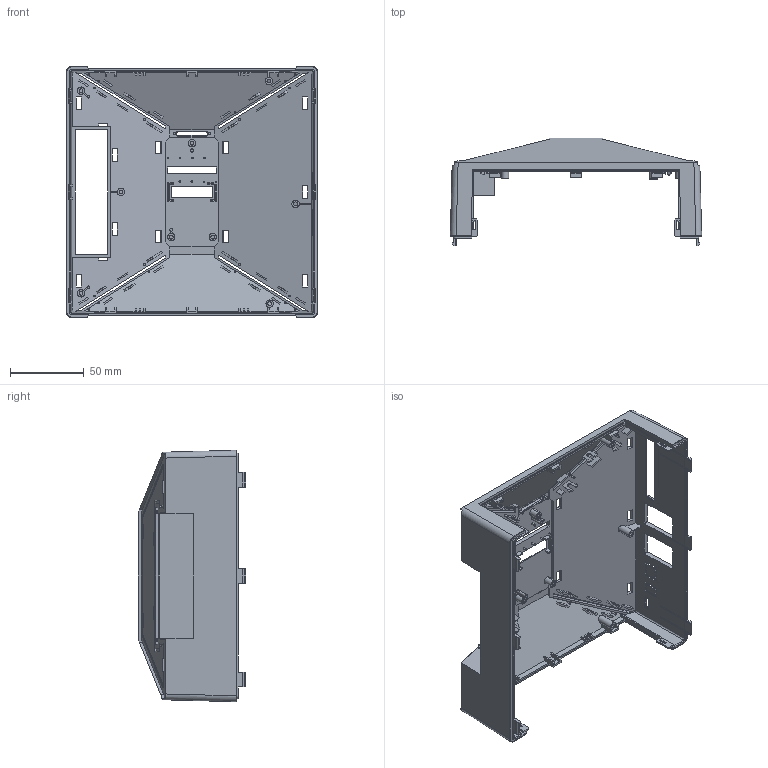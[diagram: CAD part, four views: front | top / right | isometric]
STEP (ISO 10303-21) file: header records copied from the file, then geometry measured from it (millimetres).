
FILE_DESCRIPTION((''),'2;1');
FILE_NAME('TOP_QK','2024-12-18T',('18137'),(''),'CREO PARAMETRIC BY PTC INC, 2016050','CREO PARAMETRIC BY PTC INC, 2016050','');
FILE_SCHEMA(('CONFIG_CONTROL_DESIGN'));
Length unit declared in the file: millimetre
Products named in the file (1): TOP_QK
Bounding box: 169.98 x 72.7 x 169.98 mm (x, y, z)
Volume: 129356.6 mm3; surface area: 108458.5 mm2
Topology: 1 solids, 1 shells, 1375 faces, 3834 edges, 2499 vertices
Faces by surface type: plane 1123, cylinder 204, bspline 30, extrusion 12, cone 6
Entity records: 45246 total; most frequent: CARTESIAN_POINT 10208, ORIENTED_EDGE 7668, DIRECTION 6503, EDGE_CURVE 3834, VECTOR 3305, LINE 3293, VERTEX_POINT 2499, AXIS2_PLACEMENT_3D 1599
